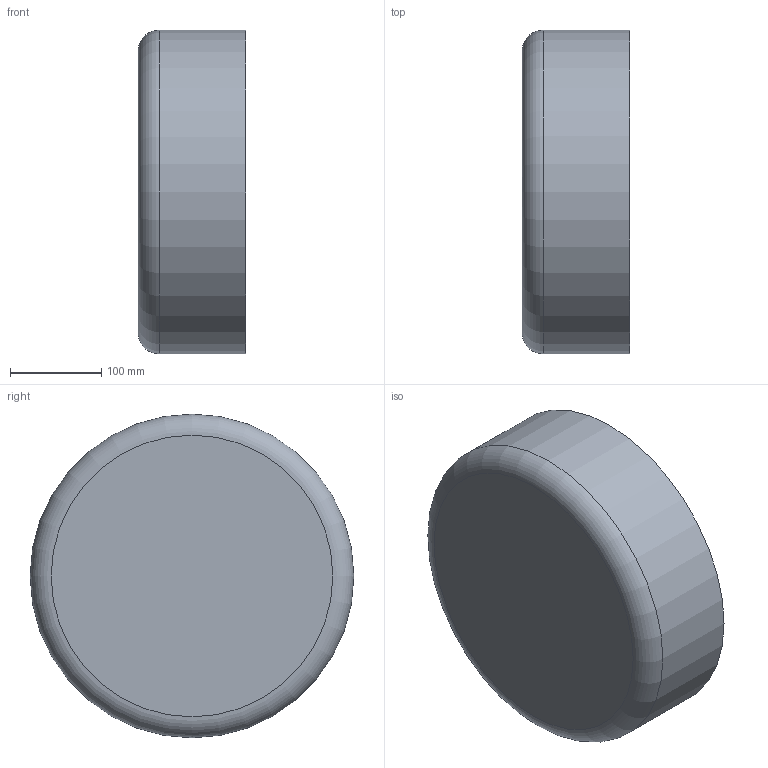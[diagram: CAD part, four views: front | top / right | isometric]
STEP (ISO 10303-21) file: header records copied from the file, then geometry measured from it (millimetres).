
FILE_DESCRIPTION(/* description */ ('Unknown'),/* implementation_level */ '2;1');
FILE_NAME(/* name */ 'CAP355H',/* time_stamp */ '2022-05-16T10:36:26+02:00',/* author */ ('Unknown'),/* organization */ ('Unknown'),/* preprocessor_version */ 'ST-DEVELOPER v18.1',/* originating_system */ 'Solid Edge',/* authorisation */ 'Unknown');
FILE_SCHEMA (('INTEGRATED_CNC_SCHEMA','AUTOMOTIVE_DESIGN {1 0 10303 214 3 1 1}'));
Length unit declared in the file: millimetre
Products named in the file (1): CAP355H
Bounding box: 118 x 355 x 355 mm (x, y, z)
Volume: 8387226.3 mm3; surface area: 400888 mm2
Topology: 1 solids, 1 shells, 648 faces, 1535 edges, 830 vertices
Faces by surface type: bspline 320, cylinder 181, plane 103, torus 22, sphere 20, cone 2
Full cylindrical faces by diameter (mm): 355 x1
Entity records: 21854 total; most frequent: CARTESIAN_POINT 8901, ORIENTED_EDGE 2932, DIRECTION 2510, EDGE_CURVE 1466, AXIS2_PLACEMENT_3D 1075, VERTEX_POINT 826, EDGE_LOOP 654, FACE_BOUND 654
